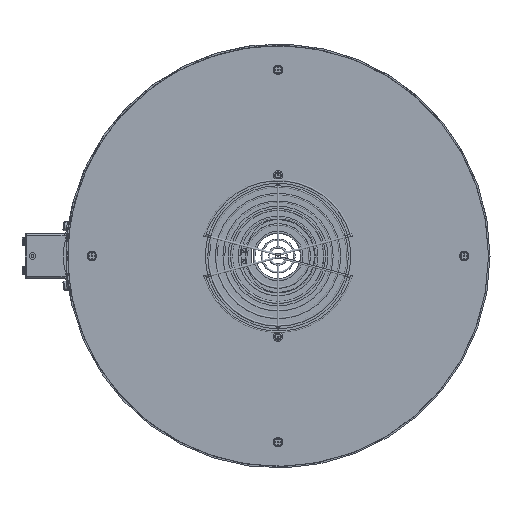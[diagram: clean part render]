
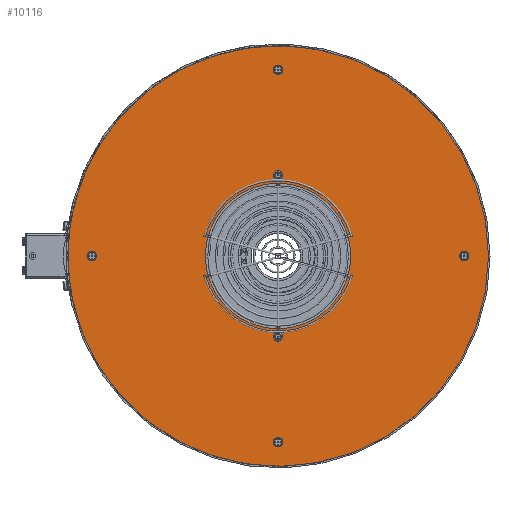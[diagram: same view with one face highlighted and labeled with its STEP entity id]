
A CAD part, left-side view. The second image highlights one B-rep face of the part: STEP entity #10116.
In plain terms, the highlighted planar face has unit normal (-1, 0, 0).
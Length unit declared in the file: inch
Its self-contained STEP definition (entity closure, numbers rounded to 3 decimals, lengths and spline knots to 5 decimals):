
#9763=CARTESIAN_POINT('',(-6.14173,-0.125,7.35768));
#9764=VERTEX_POINT('',#9763);
#9765=CARTESIAN_POINT('',(-6.14173,0.,7.35768));
#9766=DIRECTION('',(1.0,0.0,0.0));
#9767=DIRECTION('',(0.0,1.0,0.0));
#9768=AXIS2_PLACEMENT_3D('',#9765,#9766,#9767);
#9769=CIRCLE('',#9768,0.125);
#9770=EDGE_CURVE('',#9764,#9764,#9769,.T.);
#9812=CARTESIAN_POINT('',(-6.14173,-7.35768,-0.125));
#9813=VERTEX_POINT('',#9812);
#9814=CARTESIAN_POINT('',(-6.14173,-7.35768,0.));
#9815=DIRECTION('',(1.0,0.0,0.0));
#9816=DIRECTION('',(0.0,0.0,1.0));
#9817=AXIS2_PLACEMENT_3D('',#9814,#9815,#9816);
#9818=CIRCLE('',#9817,0.125);
#9819=EDGE_CURVE('',#9813,#9813,#9818,.T.);
#9861=CARTESIAN_POINT('',(-6.14173,0.125,-7.35768));
#9862=VERTEX_POINT('',#9861);
#9863=CARTESIAN_POINT('',(-6.14173,0.,-7.35768));
#9864=DIRECTION('',(1.0,0.0,0.0));
#9865=DIRECTION('',(0.0,-1.0,0.0));
#9866=AXIS2_PLACEMENT_3D('',#9863,#9864,#9865);
#9867=CIRCLE('',#9866,0.125);
#9868=EDGE_CURVE('',#9862,#9862,#9867,.T.);
#9910=CARTESIAN_POINT('',(-6.14173,7.35768,0.125));
#9911=VERTEX_POINT('',#9910);
#9912=CARTESIAN_POINT('',(-6.14173,7.35768,0.0));
#9913=DIRECTION('',(1.0,0.0,0.0));
#9914=DIRECTION('',(0.0,0.0,-1.0));
#9915=AXIS2_PLACEMENT_3D('',#9912,#9913,#9914);
#9916=CIRCLE('',#9915,0.125);
#9917=EDGE_CURVE('',#9911,#9911,#9916,.T.);
#9970=CARTESIAN_POINT('',(-6.14173,0.,-3.275));
#9971=VERTEX_POINT('',#9970);
#9972=CARTESIAN_POINT('',(-6.14173,0.,-3.18898));
#9973=DIRECTION('',(1.0,0.0,0.0));
#9974=DIRECTION('',(0.0,0.0,-1.0));
#9975=AXIS2_PLACEMENT_3D('',#9972,#9973,#9974);
#9976=CIRCLE('',#9975,0.08602);
#9977=EDGE_CURVE('',#9971,#9971,#9976,.T.);
#10019=CARTESIAN_POINT('',(-6.14173,0.0,3.275));
#10020=VERTEX_POINT('',#10019);
#10021=CARTESIAN_POINT('',(-6.14173,0.0,3.18898));
#10022=DIRECTION('',(1.0,0.0,0.0));
#10023=DIRECTION('',(0.0,0.0,1.0));
#10024=AXIS2_PLACEMENT_3D('',#10021,#10022,#10023);
#10025=CIRCLE('',#10024,0.08602);
#10026=EDGE_CURVE('',#10020,#10020,#10025,.T.);
#10047=CARTESIAN_POINT('',(-6.14173,0.,2.87402));
#10048=VERTEX_POINT('',#10047);
#10049=CARTESIAN_POINT('',(-6.14173,0.0,0.0));
#10050=DIRECTION('',(1.0,0.0,0.0));
#10051=DIRECTION('',(0.0,0.0,-1.0));
#10052=AXIS2_PLACEMENT_3D('',#10049,#10050,#10051);
#10053=CIRCLE('',#10052,2.87402);
#10054=EDGE_CURVE('',#10048,#10048,#10053,.T.);
#10075=CARTESIAN_POINT('',(-6.14173,0.,8.31496));
#10076=VERTEX_POINT('',#10075);
#10077=CARTESIAN_POINT('',(-6.14173,0.0,0.0));
#10078=DIRECTION('',(1.0,0.0,0.0));
#10079=DIRECTION('',(0.0,0.0,-1.0));
#10080=AXIS2_PLACEMENT_3D('',#10077,#10078,#10079);
#10081=CIRCLE('',#10080,8.31496);
#10082=EDGE_CURVE('',#10076,#10076,#10081,.T.);
#10087=CARTESIAN_POINT('',(-6.14173,0.0,0.0));
#10088=DIRECTION('',(1.0,0.0,0.0));
#10089=DIRECTION('',(0.0,0.0,-1.0));
#10090=AXIS2_PLACEMENT_3D('',#10087,#10088,#10089);
#10091=PLANE('',#10090);
#10092=ORIENTED_EDGE('',*,*,#10082,.F.);
#10093=EDGE_LOOP('',(#10092));
#10094=FACE_OUTER_BOUND('',#10093,.T.);
#10095=ORIENTED_EDGE('',*,*,#9770,.T.);
#10096=EDGE_LOOP('',(#10095));
#10097=FACE_BOUND('',#10096,.T.);
#10098=ORIENTED_EDGE('',*,*,#9819,.T.);
#10099=EDGE_LOOP('',(#10098));
#10100=FACE_BOUND('',#10099,.T.);
#10101=ORIENTED_EDGE('',*,*,#9868,.T.);
#10102=EDGE_LOOP('',(#10101));
#10103=FACE_BOUND('',#10102,.T.);
#10104=ORIENTED_EDGE('',*,*,#9917,.T.);
#10105=EDGE_LOOP('',(#10104));
#10106=FACE_BOUND('',#10105,.T.);
#10107=ORIENTED_EDGE('',*,*,#9977,.T.);
#10108=EDGE_LOOP('',(#10107));
#10109=FACE_BOUND('',#10108,.T.);
#10110=ORIENTED_EDGE('',*,*,#10026,.T.);
#10111=EDGE_LOOP('',(#10110));
#10112=FACE_BOUND('',#10111,.T.);
#10113=ORIENTED_EDGE('',*,*,#10054,.T.);
#10114=EDGE_LOOP('',(#10113));
#10115=FACE_BOUND('',#10114,.T.);
#10116=ADVANCED_FACE('',(#10094,#10097,#10100,#10103,#10106,#10109,#10112,#10115),#10091,.F.);
